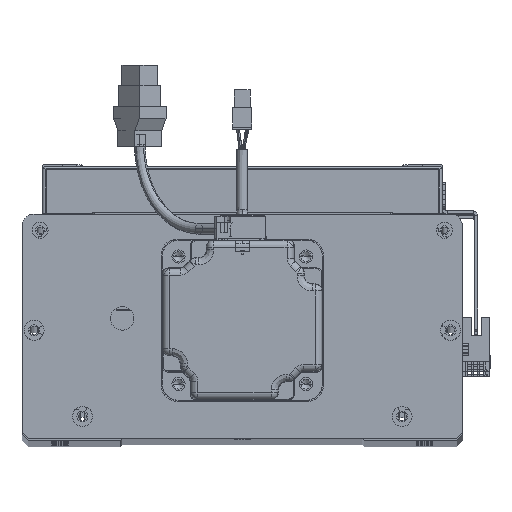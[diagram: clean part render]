
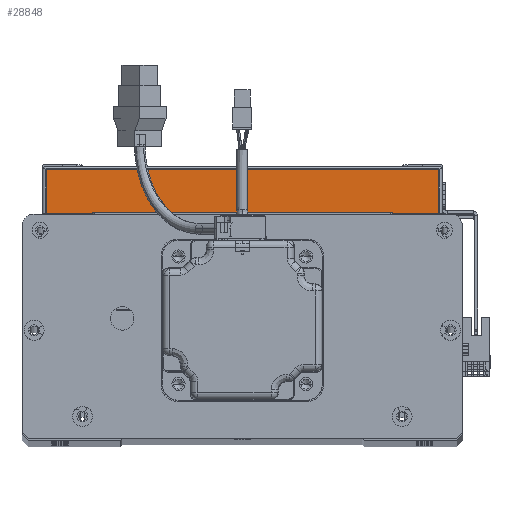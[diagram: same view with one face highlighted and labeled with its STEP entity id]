
A CAD part, top view. The second image highlights one B-rep face of the part: STEP entity #28848.
In plain terms, the highlighted planar face has unit normal (0, 0, 1) as drawn and (1, 0, 0) by its records, which use the part's own axes.
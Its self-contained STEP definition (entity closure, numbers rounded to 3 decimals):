
#225 = CARTESIAN_POINT ( 'NONE',  ( 150., 22.5, -98. ) ) ;
#2447 = VERTEX_POINT ( 'NONE', #225 ) ;
#3577 = CARTESIAN_POINT ( 'NONE',  ( 150., 0., 98. ) ) ;
#4440 = VERTEX_POINT ( 'NONE', #3577 ) ;
#4886 = FACE_OUTER_BOUND ( 'NONE', #44242, .T. ) ;
#5939 = PLANE ( 'NONE',  #51986 ) ;
#6567 = LINE ( 'NONE', #20269, #52380 ) ;
#10146 = VERTEX_POINT ( 'NONE', #50670 ) ;
#13671 = VERTEX_POINT ( 'NONE', #33119 ) ;
#13777 = ORIENTED_EDGE ( 'NONE', *, *, #47117, .T. ) ;
#20269 = CARTESIAN_POINT ( 'NONE',  ( 150., 0., -100. ) ) ;
#23998 = ORIENTED_EDGE ( 'NONE', *, *, #60666, .T. ) ;
#26079 = LINE ( 'NONE', #50071, #60113 ) ;
#27323 = DIRECTION ( 'NONE',  ( -1., 0., 0. ) ) ;
#28848 = ADVANCED_FACE ( 'NONE', ( #4886 ), #5939, .F. ) ;
#29193 = DIRECTION ( 'NONE',  ( 0., 0., 1. ) ) ;
#33119 = CARTESIAN_POINT ( 'NONE',  ( 150., 0., -98. ) ) ;
#35585 = DIRECTION ( 'NONE',  ( 0., -1., 0. ) ) ;
#36509 = DIRECTION ( 'NONE',  ( 0., 1., 0. ) ) ;
#38705 = LINE ( 'NONE', #58090, #61602 ) ;
#44242 = EDGE_LOOP ( 'NONE', ( #49984, #23998, #54787, #13777 ) ) ;
#47117 = EDGE_CURVE ( 'NONE', #4440, #13671, #6567, .T. ) ;
#47548 = DIRECTION ( 'NONE',  ( 0., 0., -1. ) ) ;
#48249 = EDGE_CURVE ( 'NONE', #13671, #2447, #38705, .T. ) ;
#49984 = ORIENTED_EDGE ( 'NONE', *, *, #48249, .T. ) ;
#50071 = CARTESIAN_POINT ( 'NONE',  ( 150., 22.5, 98. ) ) ;
#50670 = CARTESIAN_POINT ( 'NONE',  ( 150., 22.5, 98. ) ) ;
#51986 = AXIS2_PLACEMENT_3D ( 'NONE', #65077, #27323, #65316 ) ;
#52380 = VECTOR ( 'NONE', #47548, 1000. ) ;
#53489 = VECTOR ( 'NONE', #35585, 1000. ) ;
#54787 = ORIENTED_EDGE ( 'NONE', *, *, #63090, .T. ) ;
#55996 = LINE ( 'NONE', #56947, #53489 ) ;
#56947 = CARTESIAN_POINT ( 'NONE',  ( 150., 23.5, 98. ) ) ;
#58090 = CARTESIAN_POINT ( 'NONE',  ( 150., 23.5, -98. ) ) ;
#60113 = VECTOR ( 'NONE', #29193, 1000. ) ;
#60666 = EDGE_CURVE ( 'NONE', #2447, #10146, #26079, .T. ) ;
#61602 = VECTOR ( 'NONE', #36509, 1000. ) ;
#63090 = EDGE_CURVE ( 'NONE', #10146, #4440, #55996, .T. ) ;
#65077 = CARTESIAN_POINT ( 'NONE',  ( 150., 23.5, -100. ) ) ;
#65316 = DIRECTION ( 'NONE',  ( 0., 0., 1. ) ) ;
